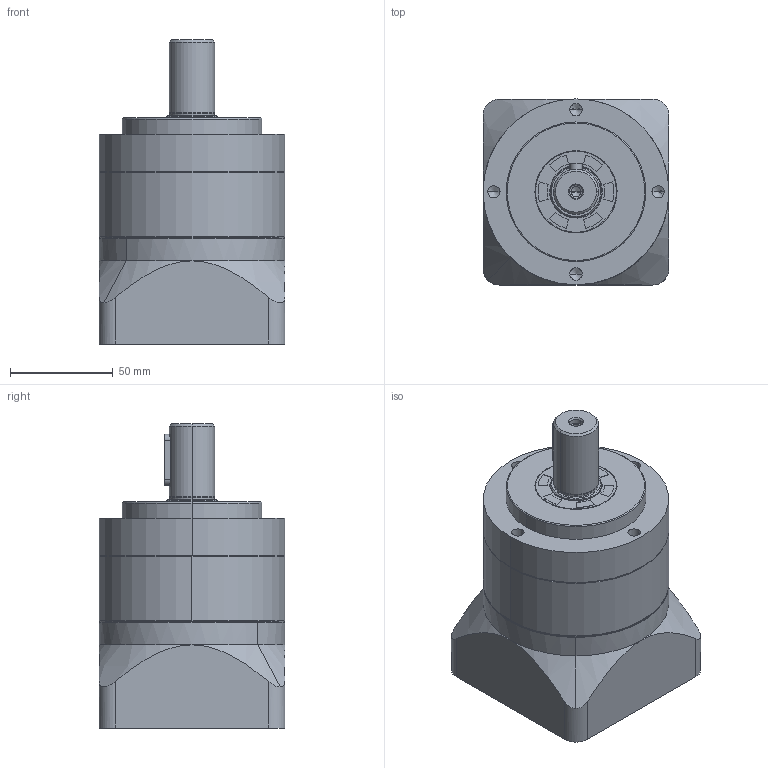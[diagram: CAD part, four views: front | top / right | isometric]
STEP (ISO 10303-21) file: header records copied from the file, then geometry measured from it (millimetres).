
FILE_DESCRIPTION (( 'STEP AP203' ), '1' );
FILE_NAME ('NA90-L1(16-80-100-M6).STEP', '2022-03-11T18:51:14', ( '' ), ( '' ), 'SwSTEP 2.0', 'SolidWorks 2016', '' );
FILE_SCHEMA (( 'CONFIG_CONTROL_DESIGN' ));
Length unit declared in the file: millimetre
Products named in the file (10): NA90-L1(16-80-100-M6); SN90-(19); SN90-(22x37-6x25); SN90-(80-100-M6); 90-(o19-16x26); NA90-(68x8-80-M6); DP90; SN90; SN90-48x27x15-M6; SN90-25x40x5
Assembly tree (9 placements, depth 2):
  NA90-L1(16-80-100-M6)
    NA90-(68x8-80-M6)
    SN90-25x40x5
    SN90-(22x37-6x25)
    SN90
    DP90
    SN90-(80-100-M6)
    SN90-(19)
    SN90-48x27x15-M6
    90-(o19-16x26)
Bounding box: 90.5 x 90.5 x 148.1 mm (x, y, z)
Volume: 667815.8 mm3; surface area: 131824.1 mm2
Topology: 11 solids, 11 shells, 470 faces, 1214 edges, 766 vertices
Faces by surface type: cylinder 249, plane 116, cone 67, bspline 32, torus 6
Entity records: 31412 total; most frequent: CARTESIAN_POINT 19376, ORIENTED_EDGE 2368, DIRECTION 2261, EDGE_CURVE 1184, AXIS2_PLACEMENT_3D 892, VERTEX_POINT 766, EDGE_LOOP 550, LINE 477
